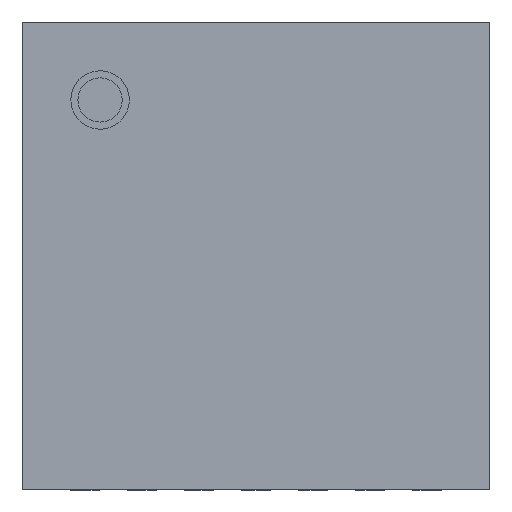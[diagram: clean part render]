
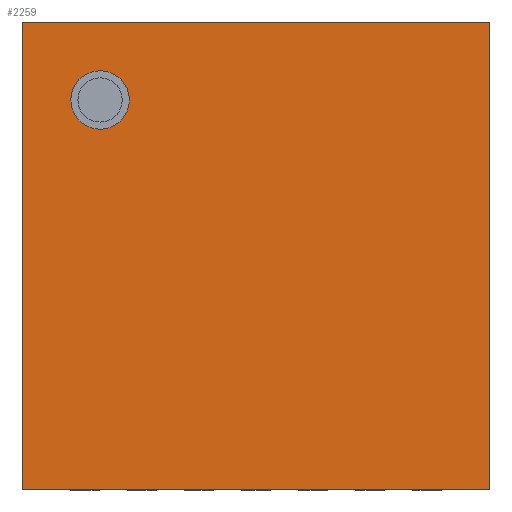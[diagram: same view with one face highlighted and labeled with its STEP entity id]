
A CAD part, top view. The second image highlights one B-rep face of the part: STEP entity #2259.
In plain terms, the highlighted planar face has unit normal (0, 0, 1).
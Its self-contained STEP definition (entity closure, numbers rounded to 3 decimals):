
#31 = DIRECTION ( 'NONE',  ( 1., 0., 0. ) ) ;
#81 = CARTESIAN_POINT ( 'NONE',  ( 0., 4.1, 0.6 ) ) ;
#132 = CARTESIAN_POINT ( 'NONE',  ( 0.683, 3.417, 0.6 ) ) ;
#159 = AXIS2_PLACEMENT_3D ( 'NONE', #132, #2278, #293 ) ;
#193 = VERTEX_POINT ( 'NONE', #2233 ) ;
#293 = DIRECTION ( 'NONE',  ( 1., 0., 0. ) ) ;
#316 = VERTEX_POINT ( 'NONE', #1660 ) ;
#432 = FACE_OUTER_BOUND ( 'NONE', #1199, .T. ) ;
#446 = DIRECTION ( 'NONE',  ( 1., 0., 0. ) ) ;
#489 = EDGE_CURVE ( 'NONE', #1094, #897, #2460, .T. ) ;
#640 = CARTESIAN_POINT ( 'NONE',  ( 0., 0., 0.6 ) ) ;
#679 = DIRECTION ( 'NONE',  ( 0., -1., 0. ) ) ;
#693 = CARTESIAN_POINT ( 'NONE',  ( 0., 0., 0.6 ) ) ;
#724 = CARTESIAN_POINT ( 'NONE',  ( 0., 0., 0.6 ) ) ;
#744 = ORIENTED_EDGE ( 'NONE', *, *, #938, .T. ) ;
#780 = CARTESIAN_POINT ( 'NONE',  ( 0.683, 3.417, 0.6 ) ) ;
#782 = AXIS2_PLACEMENT_3D ( 'NONE', #693, #892, #1913 ) ;
#788 = DIRECTION ( 'NONE',  ( 0., 0., -1. ) ) ;
#803 = ORIENTED_EDGE ( 'NONE', *, *, #489, .T. ) ;
#819 = LINE ( 'NONE', #640, #2438 ) ;
#892 = DIRECTION ( 'NONE',  ( 0., 0., 1. ) ) ;
#897 = VERTEX_POINT ( 'NONE', #1437 ) ;
#904 = FACE_BOUND ( 'NONE', #1097, .T. ) ;
#938 = EDGE_CURVE ( 'NONE', #897, #1094, #1824, .T. ) ;
#1015 = CARTESIAN_POINT ( 'NONE',  ( 0., 4.1, 0.6 ) ) ;
#1094 = VERTEX_POINT ( 'NONE', #2218 ) ;
#1097 = EDGE_LOOP ( 'NONE', ( #744, #803 ) ) ;
#1199 = EDGE_LOOP ( 'NONE', ( #1813, #1718, #2281, #1817 ) ) ;
#1220 = LINE ( 'NONE', #2277, #1901 ) ;
#1258 = CARTESIAN_POINT ( 'NONE',  ( 0., 0., 0.6 ) ) ;
#1293 = PLANE ( 'NONE',  #782 ) ;
#1303 = AXIS2_PLACEMENT_3D ( 'NONE', #780, #788, #2190 ) ;
#1399 = EDGE_CURVE ( 'NONE', #2132, #193, #1574, .T. ) ;
#1437 = CARTESIAN_POINT ( 'NONE',  ( 0.94, 3.417, 0.6 ) ) ;
#1528 = DIRECTION ( 'NONE',  ( 0., -1., 0. ) ) ;
#1574 = LINE ( 'NONE', #1015, #1626 ) ;
#1626 = VECTOR ( 'NONE', #31, 1000. ) ;
#1660 = CARTESIAN_POINT ( 'NONE',  ( 4.1, 0., 0.6 ) ) ;
#1675 = EDGE_CURVE ( 'NONE', #193, #316, #1220, .T. ) ;
#1718 = ORIENTED_EDGE ( 'NONE', *, *, #1399, .F. ) ;
#1813 = ORIENTED_EDGE ( 'NONE', *, *, #1675, .F. ) ;
#1817 = ORIENTED_EDGE ( 'NONE', *, *, #2470, .T. ) ;
#1824 = CIRCLE ( 'NONE', #1303, 0.256 ) ;
#1887 = EDGE_CURVE ( 'NONE', #2132, #2446, #2247, .T. ) ;
#1901 = VECTOR ( 'NONE', #679, 1000. ) ;
#1913 = DIRECTION ( 'NONE',  ( 1., 0., 0. ) ) ;
#2132 = VERTEX_POINT ( 'NONE', #81 ) ;
#2190 = DIRECTION ( 'NONE',  ( 1., 0., 0. ) ) ;
#2193 = VECTOR ( 'NONE', #1528, 1000. ) ;
#2218 = CARTESIAN_POINT ( 'NONE',  ( 0.427, 3.417, 0.6 ) ) ;
#2233 = CARTESIAN_POINT ( 'NONE',  ( 4.1, 4.1, 0.6 ) ) ;
#2247 = LINE ( 'NONE', #724, #2193 ) ;
#2259 = ADVANCED_FACE ( 'NONE', ( #904, #432 ), #1293, .T. ) ;
#2277 = CARTESIAN_POINT ( 'NONE',  ( 4.1, 0., 0.6 ) ) ;
#2278 = DIRECTION ( 'NONE',  ( 0., 0., -1. ) ) ;
#2281 = ORIENTED_EDGE ( 'NONE', *, *, #1887, .T. ) ;
#2438 = VECTOR ( 'NONE', #446, 1000. ) ;
#2446 = VERTEX_POINT ( 'NONE', #1258 ) ;
#2460 = CIRCLE ( 'NONE', #159, 0.256 ) ;
#2470 = EDGE_CURVE ( 'NONE', #2446, #316, #819, .T. ) ;
